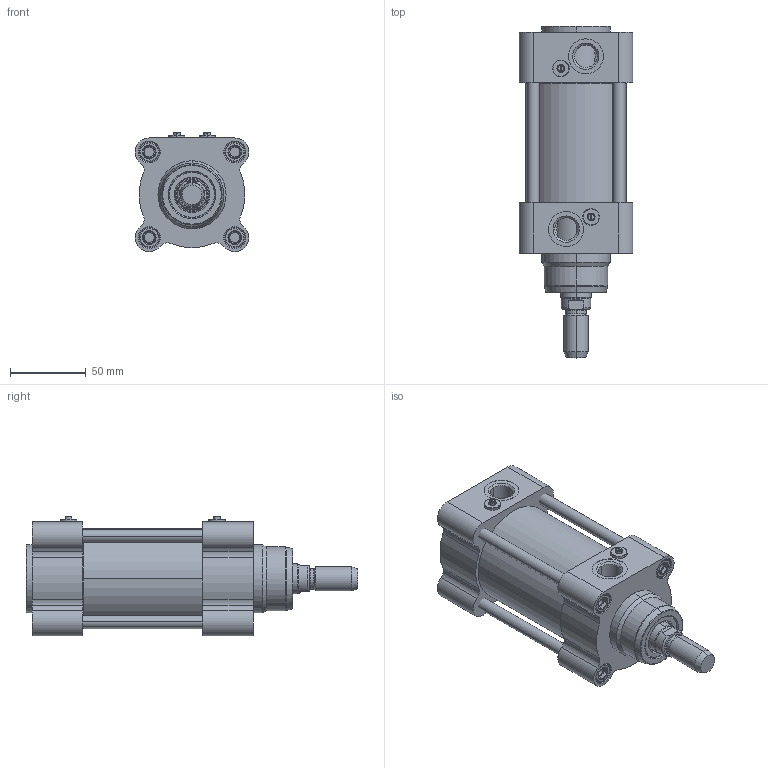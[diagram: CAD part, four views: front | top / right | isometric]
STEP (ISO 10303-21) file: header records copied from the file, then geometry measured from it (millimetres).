
FILE_DESCRIPTION (( 'STEP AP203' ), '1' );
FILE_NAME ('CTMI63-25.STEP', '2020-03-26T19:26:05', ( '' ), ( '' ), 'SwSTEP 2.0', 'SolidWorks 2019', '' );
FILE_SCHEMA (( 'CONFIG_CONTROL_DESIGN' ));
Length unit declared in the file: millimetre
Products named in the file (1): CTMI63-25
Bounding box: 74.97 x 219 x 78.68 mm (x, y, z)
Surface area: 127356.6 mm2 (no closed solid volume)
Topology: 0 solids, 24 shells, 731 faces, 1692 edges, 1048 vertices
Faces by surface type: cone 229, cylinder 203, plane 195, torus 88, bspline 16
Entity records: 23937 total; most frequent: CARTESIAN_POINT 7595, DIRECTION 3498, ORIENTED_EDGE 3336, EDGE_CURVE 1692, AXIS2_PLACEMENT_3D 1428, VERTEX_POINT 1048, EDGE_LOOP 804, ADVANCED_FACE 731
